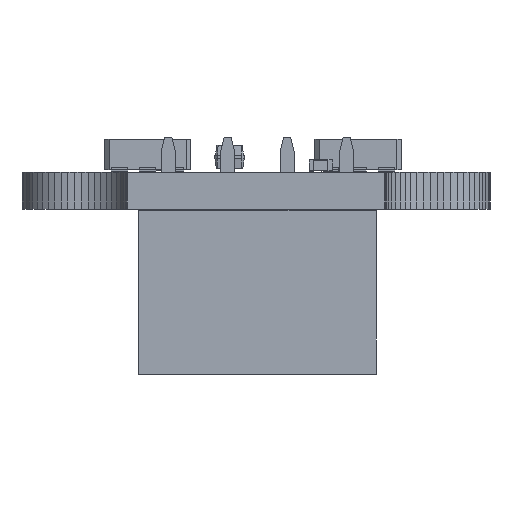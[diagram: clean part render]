
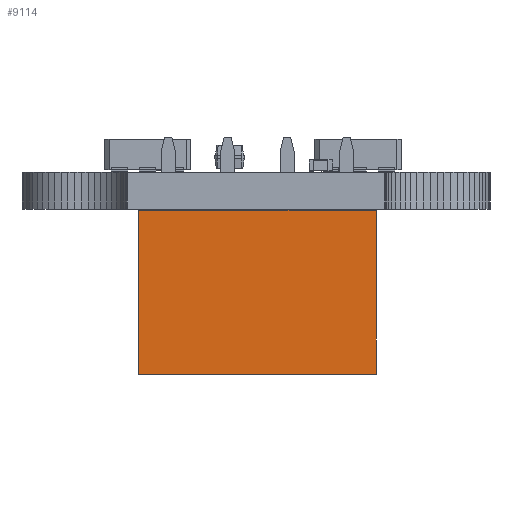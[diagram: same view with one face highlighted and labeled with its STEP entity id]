
A CAD part, left-side view. The second image highlights one B-rep face of the part: STEP entity #9114.
In plain terms, the highlighted planar face has unit normal (-1, 0, 0) as drawn and (1, 0, 0) by its records, which use the part's own axes.
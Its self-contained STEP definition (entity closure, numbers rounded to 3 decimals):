
#9114 = ADVANCED_FACE('',(#9115),#9129,.F.);
#9115 = FACE_BOUND('',#9116,.F.);
#9116 = EDGE_LOOP('',(#9117,#9152,#9180,#9208));
#9117 = ORIENTED_EDGE('',*,*,#9118,.T.);
#9118 = EDGE_CURVE('',#9119,#9121,#9123,.T.);
#9119 = VERTEX_POINT('',#9120);
#9120 = CARTESIAN_POINT('',(1.27,-8.89,0.));
#9121 = VERTEX_POINT('',#9122);
#9122 = CARTESIAN_POINT('',(1.27,-8.89,7.));
#9123 = SURFACE_CURVE('',#9124,(#9128,#9140),.PCURVE_S1.);
#9124 = LINE('',#9125,#9126);
#9125 = CARTESIAN_POINT('',(1.27,-8.89,0.));
#9126 = VECTOR('',#9127,1.);
#9127 = DIRECTION('',(0.,0.,1.));
#9128 = PCURVE('',#9129,#9134);
#9129 = PLANE('',#9130);
#9130 = AXIS2_PLACEMENT_3D('',#9131,#9132,#9133);
#9131 = CARTESIAN_POINT('',(1.27,-8.89,0.));
#9132 = DIRECTION('',(-1.,0.,0.));
#9133 = DIRECTION('',(0.,1.,0.));
#9134 = DEFINITIONAL_REPRESENTATION('',(#9135),#9139);
#9135 = LINE('',#9136,#9137);
#9136 = CARTESIAN_POINT('',(0.,0.));
#9137 = VECTOR('',#9138,1.);
#9138 = DIRECTION('',(0.,-1.));
#9139 = ( GEOMETRIC_REPRESENTATION_CONTEXT(2) 
PARAMETRIC_REPRESENTATION_CONTEXT() REPRESENTATION_CONTEXT('2D SPACE',''
  ) );
#9140 = PCURVE('',#9141,#9146);
#9141 = PLANE('',#9142);
#9142 = AXIS2_PLACEMENT_3D('',#9143,#9144,#9145);
#9143 = CARTESIAN_POINT('',(-1.27,-8.89,0.));
#9144 = DIRECTION('',(0.,1.,0.));
#9145 = DIRECTION('',(1.,0.,0.));
#9146 = DEFINITIONAL_REPRESENTATION('',(#9147),#9151);
#9147 = LINE('',#9148,#9149);
#9148 = CARTESIAN_POINT('',(2.54,0.));
#9149 = VECTOR('',#9150,1.);
#9150 = DIRECTION('',(0.,-1.));
#9151 = ( GEOMETRIC_REPRESENTATION_CONTEXT(2) 
PARAMETRIC_REPRESENTATION_CONTEXT() REPRESENTATION_CONTEXT('2D SPACE',''
  ) );
#9152 = ORIENTED_EDGE('',*,*,#9153,.T.);
#9153 = EDGE_CURVE('',#9121,#9154,#9156,.T.);
#9154 = VERTEX_POINT('',#9155);
#9155 = CARTESIAN_POINT('',(1.27,1.27,7.));
#9156 = SURFACE_CURVE('',#9157,(#9161,#9168),.PCURVE_S1.);
#9157 = LINE('',#9158,#9159);
#9158 = CARTESIAN_POINT('',(1.27,-8.89,7.));
#9159 = VECTOR('',#9160,1.);
#9160 = DIRECTION('',(0.,1.,0.));
#9161 = PCURVE('',#9129,#9162);
#9162 = DEFINITIONAL_REPRESENTATION('',(#9163),#9167);
#9163 = LINE('',#9164,#9165);
#9164 = CARTESIAN_POINT('',(0.,-7.));
#9165 = VECTOR('',#9166,1.);
#9166 = DIRECTION('',(1.,0.));
#9167 = ( GEOMETRIC_REPRESENTATION_CONTEXT(2) 
PARAMETRIC_REPRESENTATION_CONTEXT() REPRESENTATION_CONTEXT('2D SPACE',''
  ) );
#9168 = PCURVE('',#9169,#9174);
#9169 = PLANE('',#9170);
#9170 = AXIS2_PLACEMENT_3D('',#9171,#9172,#9173);
#9171 = CARTESIAN_POINT('',(1.27,-8.89,7.));
#9172 = DIRECTION('',(-0.,0.,-1.));
#9173 = DIRECTION('',(0.,-1.,-0.));
#9174 = DEFINITIONAL_REPRESENTATION('',(#9175),#9179);
#9175 = LINE('',#9176,#9177);
#9176 = CARTESIAN_POINT('',(0.,0.));
#9177 = VECTOR('',#9178,1.);
#9178 = DIRECTION('',(-1.,0.));
#9179 = ( GEOMETRIC_REPRESENTATION_CONTEXT(2) 
PARAMETRIC_REPRESENTATION_CONTEXT() REPRESENTATION_CONTEXT('2D SPACE',''
  ) );
#9180 = ORIENTED_EDGE('',*,*,#9181,.F.);
#9181 = EDGE_CURVE('',#9182,#9154,#9184,.T.);
#9182 = VERTEX_POINT('',#9183);
#9183 = CARTESIAN_POINT('',(1.27,1.27,0.));
#9184 = SURFACE_CURVE('',#9185,(#9189,#9196),.PCURVE_S1.);
#9185 = LINE('',#9186,#9187);
#9186 = CARTESIAN_POINT('',(1.27,1.27,0.));
#9187 = VECTOR('',#9188,1.);
#9188 = DIRECTION('',(0.,0.,1.));
#9189 = PCURVE('',#9129,#9190);
#9190 = DEFINITIONAL_REPRESENTATION('',(#9191),#9195);
#9191 = LINE('',#9192,#9193);
#9192 = CARTESIAN_POINT('',(10.16,0.));
#9193 = VECTOR('',#9194,1.);
#9194 = DIRECTION('',(0.,-1.));
#9195 = ( GEOMETRIC_REPRESENTATION_CONTEXT(2) 
PARAMETRIC_REPRESENTATION_CONTEXT() REPRESENTATION_CONTEXT('2D SPACE',''
  ) );
#9196 = PCURVE('',#9197,#9202);
#9197 = PLANE('',#9198);
#9198 = AXIS2_PLACEMENT_3D('',#9199,#9200,#9201);
#9199 = CARTESIAN_POINT('',(1.27,1.27,0.));
#9200 = DIRECTION('',(0.,-1.,0.));
#9201 = DIRECTION('',(-1.,0.,0.));
#9202 = DEFINITIONAL_REPRESENTATION('',(#9203),#9207);
#9203 = LINE('',#9204,#9205);
#9204 = CARTESIAN_POINT('',(0.,0.));
#9205 = VECTOR('',#9206,1.);
#9206 = DIRECTION('',(0.,-1.));
#9207 = ( GEOMETRIC_REPRESENTATION_CONTEXT(2) 
PARAMETRIC_REPRESENTATION_CONTEXT() REPRESENTATION_CONTEXT('2D SPACE',''
  ) );
#9208 = ORIENTED_EDGE('',*,*,#9209,.F.);
#9209 = EDGE_CURVE('',#9119,#9182,#9210,.T.);
#9210 = SURFACE_CURVE('',#9211,(#9215,#9222),.PCURVE_S1.);
#9211 = LINE('',#9212,#9213);
#9212 = CARTESIAN_POINT('',(1.27,-8.89,0.));
#9213 = VECTOR('',#9214,1.);
#9214 = DIRECTION('',(0.,1.,0.));
#9215 = PCURVE('',#9129,#9216);
#9216 = DEFINITIONAL_REPRESENTATION('',(#9217),#9221);
#9217 = LINE('',#9218,#9219);
#9218 = CARTESIAN_POINT('',(0.,0.));
#9219 = VECTOR('',#9220,1.);
#9220 = DIRECTION('',(1.,0.));
#9221 = ( GEOMETRIC_REPRESENTATION_CONTEXT(2) 
PARAMETRIC_REPRESENTATION_CONTEXT() REPRESENTATION_CONTEXT('2D SPACE',''
  ) );
#9222 = PCURVE('',#9223,#9228);
#9223 = PLANE('',#9224);
#9224 = AXIS2_PLACEMENT_3D('',#9225,#9226,#9227);
#9225 = CARTESIAN_POINT('',(1.27,-8.89,0.));
#9226 = DIRECTION('',(-0.,0.,-1.));
#9227 = DIRECTION('',(0.,-1.,-0.));
#9228 = DEFINITIONAL_REPRESENTATION('',(#9229),#9233);
#9229 = LINE('',#9230,#9231);
#9230 = CARTESIAN_POINT('',(0.,0.));
#9231 = VECTOR('',#9232,1.);
#9232 = DIRECTION('',(-1.,0.));
#9233 = ( GEOMETRIC_REPRESENTATION_CONTEXT(2) 
PARAMETRIC_REPRESENTATION_CONTEXT() REPRESENTATION_CONTEXT('2D SPACE',''
  ) );
